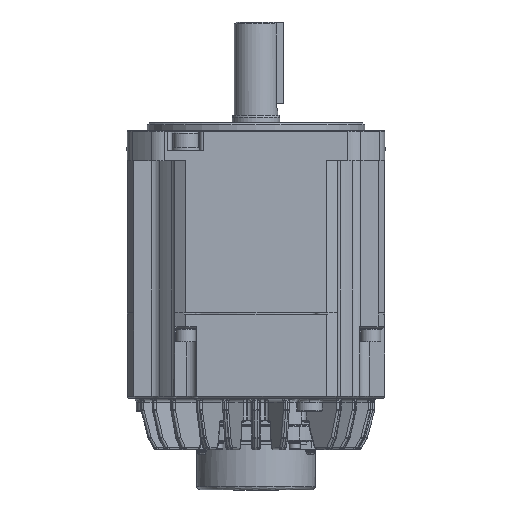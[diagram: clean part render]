
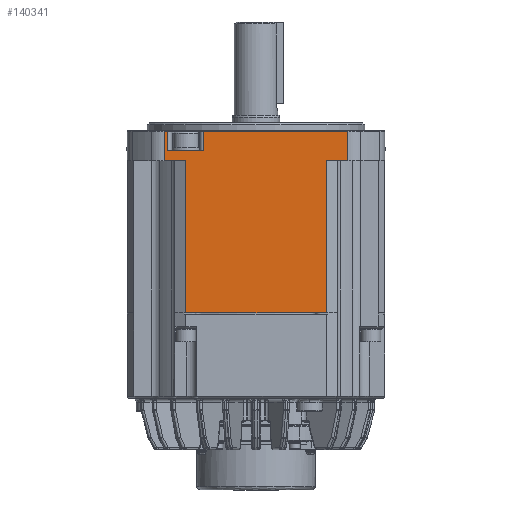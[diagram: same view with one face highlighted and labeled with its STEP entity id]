
A CAD part, front view. The second image highlights one B-rep face of the part: STEP entity #140341.
In plain terms, the highlighted planar face has unit normal (0, -1, 0) as drawn and (0, 0, -1) by its records, which use the part's own axes.
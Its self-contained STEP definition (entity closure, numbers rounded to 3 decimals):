
#178 = EDGE_CURVE ( 'NONE', #66942, #39156, #10580, .T. ) ;
#4095 = LINE ( 'NONE', #112869, #133849 ) ;
#6207 = DIRECTION ( 'NONE',  ( 0., -1., 0. ) ) ;
#7620 = CARTESIAN_POINT ( 'NONE',  ( 91.568, -10.053, -130. ) ) ;
#8288 = LINE ( 'NONE', #38850, #37943 ) ;
#9747 = LINE ( 'NONE', #79646, #39369 ) ;
#10580 = LINE ( 'NONE', #80951, #77862 ) ;
#12514 = VECTOR ( 'NONE', #159068, 1000. ) ;
#14376 = CARTESIAN_POINT ( 'NONE',  ( 80.603, -10.053, -130. ) ) ;
#15907 = ORIENTED_EDGE ( 'NONE', *, *, #90963, .T. ) ;
#16650 = CARTESIAN_POINT ( 'NONE',  ( -1.363, 66.947, -130. ) ) ;
#21116 = CARTESIAN_POINT ( 'NONE',  ( 80.603, 66.947, -130. ) ) ;
#21825 = VECTOR ( 'NONE', #29240, 1000. ) ;
#22139 = VECTOR ( 'NONE', #44860, 1000. ) ;
#25414 = ORIENTED_EDGE ( 'NONE', *, *, #89031, .T. ) ;
#26203 = VECTOR ( 'NONE', #38150, 1000. ) ;
#29240 = DIRECTION ( 'NONE',  ( -1., 0., 0. ) ) ;
#29293 = CARTESIAN_POINT ( 'NONE',  ( 80.603, -10.053, -130. ) ) ;
#31686 = ORIENTED_EDGE ( 'NONE', *, *, #87828, .T. ) ;
#32151 = EDGE_LOOP ( 'NONE', ( #99431, #147458, #120127, #117298, #102844, #124430, #31686, #66800, #66483, #25414, #69226, #67125, #153319, #103355, #15907 ) ) ;
#33132 = VERTEX_POINT ( 'NONE', #131195 ) ;
#34120 = VERTEX_POINT ( 'NONE', #14376 ) ;
#37943 = VECTOR ( 'NONE', #51601, 1000. ) ;
#38150 = DIRECTION ( 'NONE',  ( 0., 1., 0. ) ) ;
#38850 = CARTESIAN_POINT ( 'NONE',  ( 80.603, 66.947, -130. ) ) ;
#39156 = VERTEX_POINT ( 'NONE', #109291 ) ;
#39369 = VECTOR ( 'NONE', #154098, 1000. ) ;
#43595 = DIRECTION ( 'NONE',  ( 1., 0., 0. ) ) ;
#44786 = VERTEX_POINT ( 'NONE', #121463 ) ;
#44860 = DIRECTION ( 'NONE',  ( 0., -1., 0. ) ) ;
#46530 = CARTESIAN_POINT ( 'NONE',  ( 80.603, -24.753, -130. ) ) ;
#47116 = CARTESIAN_POINT ( 'NONE',  ( 80.603, 66.947, -130. ) ) ;
#47658 = PLANE ( 'NONE',  #94767 ) ;
#50477 = CARTESIAN_POINT ( 'NONE',  ( -1.363, -24.753, -130. ) ) ;
#51328 = LINE ( 'NONE', #162872, #80947 ) ;
#51478 = LINE ( 'NONE', #104709, #21825 ) ;
#51601 = DIRECTION ( 'NONE',  ( 1., 0., 0. ) ) ;
#51954 = VECTOR ( 'NONE', #43595, 1000. ) ;
#55965 = LINE ( 'NONE', #131232, #51954 ) ;
#56600 = CARTESIAN_POINT ( 'NONE',  ( 0.602, 66.947, -130. ) ) ;
#58458 = VERTEX_POINT ( 'NONE', #7620 ) ;
#63198 = DIRECTION ( 'NONE',  ( 0., -1., 0. ) ) ;
#64077 = VERTEX_POINT ( 'NONE', #115479 ) ;
#66483 = ORIENTED_EDGE ( 'NONE', *, *, #88793, .T. ) ;
#66800 = ORIENTED_EDGE ( 'NONE', *, *, #88048, .T. ) ;
#66942 = VERTEX_POINT ( 'NONE', #151611 ) ;
#67125 = ORIENTED_EDGE ( 'NONE', *, *, #89758, .T. ) ;
#67491 = CARTESIAN_POINT ( 'NONE',  ( 80.603, -24.753, -130. ) ) ;
#68239 = CARTESIAN_POINT ( 'NONE',  ( 18.602, -15.053, -130. ) ) ;
#69226 = ORIENTED_EDGE ( 'NONE', *, *, #92098, .T. ) ;
#73185 = DIRECTION ( 'NONE',  ( 0., 1., 0. ) ) ;
#74108 = VERTEX_POINT ( 'NONE', #158071 ) ;
#74403 = CARTESIAN_POINT ( 'NONE',  ( 18.602, -24.753, -130. ) ) ;
#75836 = CARTESIAN_POINT ( 'NONE',  ( 9.602, 66.947, -130. ) ) ;
#77862 = VECTOR ( 'NONE', #162729, 1000. ) ;
#79625 = DIRECTION ( 'NONE',  ( 0., 1., 0. ) ) ;
#79646 = CARTESIAN_POINT ( 'NONE',  ( 80.603, -15.053, -130. ) ) ;
#79845 = LINE ( 'NONE', #16650, #145962 ) ;
#80506 = VERTEX_POINT ( 'NONE', #103125 ) ;
#80947 = VECTOR ( 'NONE', #101012, 1000. ) ;
#80951 = CARTESIAN_POINT ( 'NONE',  ( 80.603, -10.053, -130. ) ) ;
#85161 = VECTOR ( 'NONE', #117135, 1000. ) ;
#85323 = LINE ( 'NONE', #21116, #22139 ) ;
#85677 = EDGE_CURVE ( 'NONE', #158482, #109431, #153668, .T. ) ;
#85894 = EDGE_CURVE ( 'NONE', #109431, #94726, #145874, .T. ) ;
#86630 = EDGE_CURVE ( 'NONE', #94726, #66942, #79845, .T. ) ;
#87828 = EDGE_CURVE ( 'NONE', #39156, #74108, #159407, .T. ) ;
#88048 = EDGE_CURVE ( 'NONE', #74108, #44786, #55965, .T. ) ;
#88793 = EDGE_CURVE ( 'NONE', #44786, #64077, #8288, .T. ) ;
#89031 = EDGE_CURVE ( 'NONE', #64077, #34120, #85323, .T. ) ;
#89758 = EDGE_CURVE ( 'NONE', #58458, #33132, #4095, .T. ) ;
#89968 = EDGE_CURVE ( 'NONE', #33132, #152109, #118275, .T. ) ;
#90924 = EDGE_CURVE ( 'NONE', #152109, #152358, #122040, .T. ) ;
#90963 = EDGE_CURVE ( 'NONE', #152358, #112311, #51478, .T. ) ;
#91893 = EDGE_CURVE ( 'NONE', #112311, #80506, #51328, .T. ) ;
#92083 = EDGE_CURVE ( 'NONE', #80506, #158482, #9747, .T. ) ;
#92098 = EDGE_CURVE ( 'NONE', #34120, #58458, #135448, .T. ) ;
#94726 = VERTEX_POINT ( 'NONE', #50477 ) ;
#94767 = AXIS2_PLACEMENT_3D ( 'NONE', #47116, #147642, #73185 ) ;
#99431 = ORIENTED_EDGE ( 'NONE', *, *, #91893, .T. ) ;
#100775 = CARTESIAN_POINT ( 'NONE',  ( 11.391, -15.053, -130. ) ) ;
#101012 = DIRECTION ( 'NONE',  ( -1., 0., 0. ) ) ;
#102443 = VECTOR ( 'NONE', #129675, 1000. ) ;
#102844 = ORIENTED_EDGE ( 'NONE', *, *, #86630, .T. ) ;
#103109 = DIRECTION ( 'NONE',  ( 0., 1., 0. ) ) ;
#103125 = CARTESIAN_POINT ( 'NONE',  ( 7.814, -15.053, -130. ) ) ;
#103355 = ORIENTED_EDGE ( 'NONE', *, *, #90924, .T. ) ;
#103649 = CARTESIAN_POINT ( 'NONE',  ( 18.602, 66.947, -130. ) ) ;
#104709 = CARTESIAN_POINT ( 'NONE',  ( 80.603, -15.053, -130. ) ) ;
#109291 = CARTESIAN_POINT ( 'NONE',  ( 9.602, -10.053, -130. ) ) ;
#109431 = VERTEX_POINT ( 'NONE', #126867 ) ;
#112311 = VERTEX_POINT ( 'NONE', #100775 ) ;
#112869 = CARTESIAN_POINT ( 'NONE',  ( 91.568, 66.947, -130. ) ) ;
#115479 = CARTESIAN_POINT ( 'NONE',  ( 80.603, 66.947, -130. ) ) ;
#117135 = DIRECTION ( 'NONE',  ( -1., 0., 0. ) ) ;
#117298 = ORIENTED_EDGE ( 'NONE', *, *, #85894, .T. ) ;
#118275 = LINE ( 'NONE', #67491, #85161 ) ;
#120127 = ORIENTED_EDGE ( 'NONE', *, *, #85677, .T. ) ;
#120682 = VECTOR ( 'NONE', #6207, 1000. ) ;
#121463 = CARTESIAN_POINT ( 'NONE',  ( 45.102, 66.947, -130. ) ) ;
#122040 = LINE ( 'NONE', #103649, #151102 ) ;
#124430 = ORIENTED_EDGE ( 'NONE', *, *, #178, .T. ) ;
#126867 = CARTESIAN_POINT ( 'NONE',  ( 0.602, -24.753, -130. ) ) ;
#129675 = DIRECTION ( 'NONE',  ( 1., 0., 0. ) ) ;
#131195 = CARTESIAN_POINT ( 'NONE',  ( 91.568, -24.753, -130. ) ) ;
#131232 = CARTESIAN_POINT ( 'NONE',  ( 80.603, 66.947, -130. ) ) ;
#133849 = VECTOR ( 'NONE', #63198, 1000. ) ;
#135448 = LINE ( 'NONE', #29293, #102443 ) ;
#135975 = CARTESIAN_POINT ( 'NONE',  ( 0.602, -15.053, -130. ) ) ;
#140341 = ADVANCED_FACE ( 'NONE', ( #142846 ), #47658, .T. ) ;
#142846 = FACE_OUTER_BOUND ( 'NONE', #32151, .T. ) ;
#145874 = LINE ( 'NONE', #46530, #12514 ) ;
#145962 = VECTOR ( 'NONE', #79625, 1000. ) ;
#147458 = ORIENTED_EDGE ( 'NONE', *, *, #92083, .T. ) ;
#147642 = DIRECTION ( 'NONE',  ( 0., 0., -1. ) ) ;
#151102 = VECTOR ( 'NONE', #103109, 1000. ) ;
#151611 = CARTESIAN_POINT ( 'NONE',  ( -1.363, -10.053, -130. ) ) ;
#152109 = VERTEX_POINT ( 'NONE', #74403 ) ;
#152358 = VERTEX_POINT ( 'NONE', #68239 ) ;
#153319 = ORIENTED_EDGE ( 'NONE', *, *, #89968, .T. ) ;
#153668 = LINE ( 'NONE', #56600, #120682 ) ;
#154098 = DIRECTION ( 'NONE',  ( -1., 0., 0. ) ) ;
#158071 = CARTESIAN_POINT ( 'NONE',  ( 9.602, 66.947, -130. ) ) ;
#158482 = VERTEX_POINT ( 'NONE', #135975 ) ;
#159068 = DIRECTION ( 'NONE',  ( -1., 0., 0. ) ) ;
#159407 = LINE ( 'NONE', #75836, #26203 ) ;
#162729 = DIRECTION ( 'NONE',  ( 1., 0., 0. ) ) ;
#162872 = CARTESIAN_POINT ( 'NONE',  ( 80.603, -15.053, -130. ) ) ;
